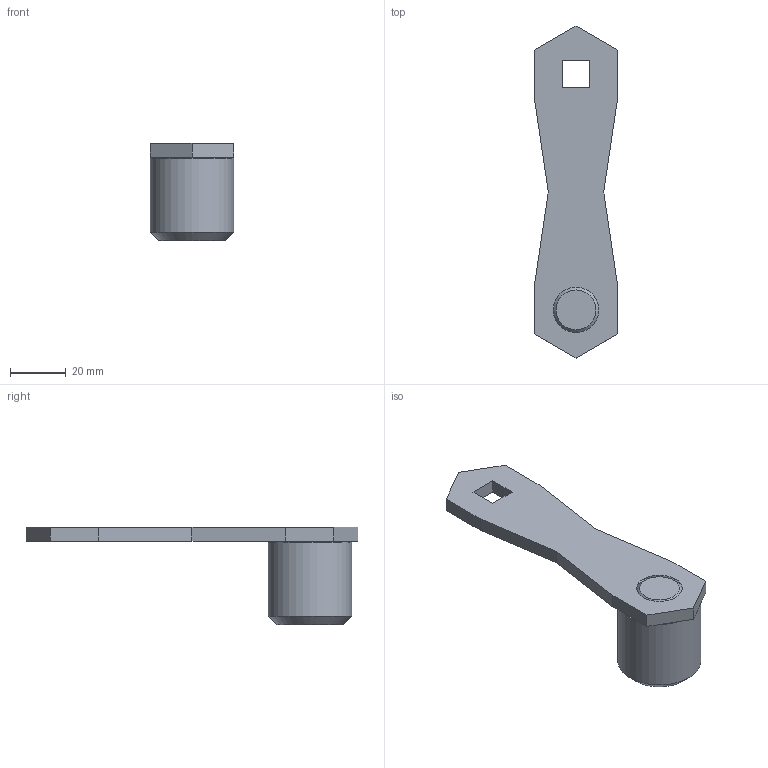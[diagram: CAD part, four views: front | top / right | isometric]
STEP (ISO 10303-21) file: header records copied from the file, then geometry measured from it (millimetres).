
FILE_DESCRIPTION(/* description */ (''),/* implementation_level */ '2;1');
FILE_NAME(/* name */ 'D:/Dokumenty/3D/Luke''s 3D/Projects/Spool winder v3/STEP/Handle.step',/* time_stamp */ '2021-11-14T12:10:29+01:00',/* author */ (''),/* organization */ (''),/* preprocessor_version */ 'ST-DEVELOPER v18.1',/* originating_system */ 'Autodesk Translation Framework v10.10.0.1391',/* authorisation */ '');
FILE_SCHEMA (('AUTOMOTIVE_DESIGN { 1 0 10303 214 3 1 1 }'));
Length unit declared in the file: millimetre
Products named in the file (2): Spool winder 2; Handle
Assembly tree (1 placements, depth 2):
  Spool winder 2
    Handle
Bounding box: 30 x 119.64 x 35 mm (x, y, z)
Volume: 34688.1 mm3; surface area: 12022.8 mm2
Topology: 2 solids, 2 shells, 200 faces, 551 edges, 366 vertices
Faces by surface type: plane 119, bspline 74, cone 5, cylinder 2
Full cylindrical faces by diameter (mm): 13.8 x1, 30 x1
Entity records: 6522 total; most frequent: CARTESIAN_POINT 2066, ORIENTED_EDGE 1102, DIRECTION 679, EDGE_CURVE 551, LINE 393, VECTOR 393, VERTEX_POINT 366, EDGE_LOOP 215
